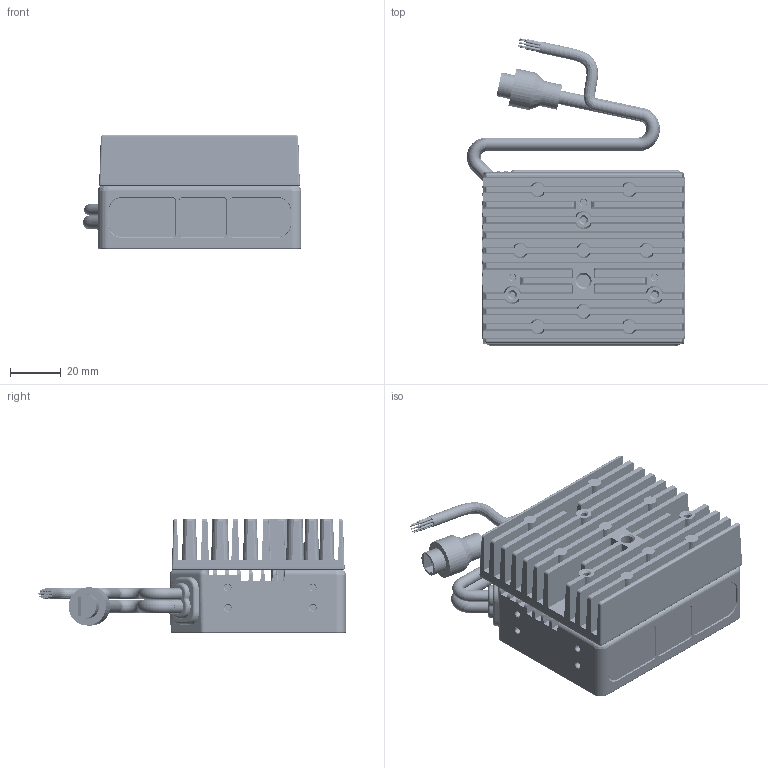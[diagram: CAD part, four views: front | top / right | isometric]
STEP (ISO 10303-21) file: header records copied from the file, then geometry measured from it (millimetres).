
FILE_DESCRIPTION((''),'2;1');
FILE_NAME('000_NYX310_TOP_LEVEL_V2-0724_ASM','2026-08-06T15:49:08',('alan.fan'),(''),'CREO PARAMETRIC BY PTC INC, 2021023','CREO PARAMETRIC BY PTC INC, 2021023','');
FILE_SCHEMA(('CONFIG_CONTROL_DESIGN','GEOMETRIC_VALIDATION_PROPERTIES_MIM'));
Products named in the file (22): WAIKE-25MM; SR-20250120; SR-2025012000; TWO-SR_ASM; LENS; SHUANGMIANJIAO; 000; RGB-TOF-CAMERA-LENS_ASM; LASER-LENS-GLASS; LASER_LED_LENS_10_2; LASER_LED_LENS_ASM; TOF-LENS; TOF-SHUANGMIANJIAO; TOF-LENS_ASM; CAP-SCREW-M2X14-1015; O-RING-2X1; M2X5; SCREW_ASM; HOUKE25MM; 000_NYX310_TOP_LEVEL_V2-0724_ASM
Assembly tree (30 placements, depth 3):
  000_NYX310_TOP_LEVEL_V2-0724_ASM
    WAIKE-25MM
    TWO-SR_ASM
      SR-20250120
      SR-2025012000
    RGB-TOF-CAMERA-LENS_ASM
      LENS
      SHUANGMIANJIAO
      000
    LASER_LED_LENS_ASM
      LASER-LENS-GLASS
      LASER_LED_LENS_10_2
    TOF-LENS_ASM
      TOF-LENS
      TOF-SHUANGMIANJIAO
    SCREW_ASM
      CAP-SCREW-M2X14-1015  x5
      O-RING-2X1  x4
      M2X5  x3
    000
    HOUKE25MM
    000
Bounding box: 85.91 x 121.13 x 44.95 mm (x, y, z)
Volume: 115404.7 mm3; surface area: 102345.5 mm2
Topology: 36 solids, 36 shells, 3415 faces, 8876 edges, 5635 vertices
Faces by surface type: cylinder 1496, plane 1028, bspline 389, cone 257, torus 179, sphere 38, extrusion 28
Entity records: 132208 total; most frequent: CARTESIAN_POINT 41861, ORIENTED_EDGE 12548, DIRECTION 10990, PRESENTATION_STYLE_ASSIGNMENT 7854, STYLED_ITEM 7852, EDGE_CURVE 6274, CURVE_STYLE 5764, VERTEX_POINT 3949
